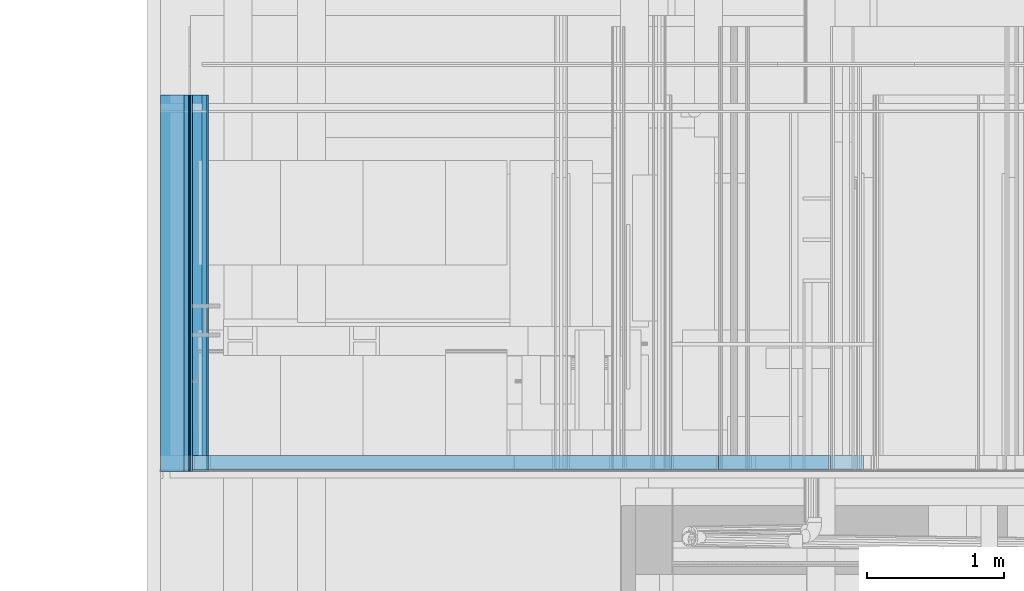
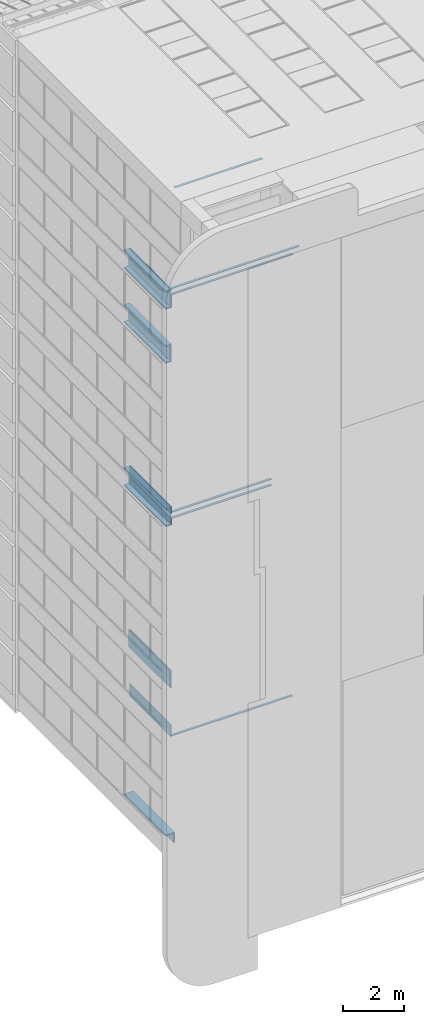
# One storey, part 37 of 583: 41 building element parts, 17 elements without a shape of their own.
"""IFC2X3 building model written with IfcOpenShell, lengths in metres."""

from ifc_helpers import new_model, entity, si_unit, converted_unit, derived_unit, money_unit, direction, frame, frame_2d, origin_with_axes, place, context, subcontext, project, spatial, polyline, rectangle, outline, extrude, material, type_object, element, aggregate, save


model = new_model("IFC2X3")

# Units and contexts
model_context = context("Model", 3, precision=1e-05, world=origin_with_axes(), true_north=direction((0.0, 1.0)))
body_context = subcontext(model_context, "Body", "Model", "MODEL_VIEW", scale=1.0)
ifc_project = project(units=[si_unit("LENGTHUNIT", "METRE"), si_unit("AREAUNIT", "SQUARE_METRE"), si_unit("VOLUMEUNIT", "CUBIC_METRE"), si_unit("ABSORBEDDOSEUNIT", "GRAY"), si_unit("AMOUNTOFSUBSTANCEUNIT", "MOLE"), si_unit("DOSEEQUIVALENTUNIT", "SIEVERT"), si_unit("ELECTRICCAPACITANCEUNIT", "FARAD"), si_unit("ELECTRICCHARGEUNIT", "COULOMB"), si_unit("ELECTRICCONDUCTANCEUNIT", "SIEMENS"), si_unit("ELECTRICCURRENTUNIT", "AMPERE"), si_unit("ELECTRICRESISTANCEUNIT", "OHM"), si_unit("ELECTRICVOLTAGEUNIT", "VOLT"), si_unit("ENERGYUNIT", "JOULE"), si_unit("FORCEUNIT", "NEWTON"), si_unit("FREQUENCYUNIT", "HERTZ"), si_unit("ILLUMINANCEUNIT", "LUX"), si_unit("INDUCTANCEUNIT", "HENRY"), si_unit("LUMINOUSFLUXUNIT", "LUMEN"), si_unit("LUMINOUSINTENSITYUNIT", "CANDELA"), si_unit("MAGNETICFLUXDENSITYUNIT", "TESLA"), si_unit("MAGNETICFLUXUNIT", "WEBER"), si_unit("MASSUNIT", "GRAM"), converted_unit("PLANEANGLEUNIT", "degree", entity("IfcReal", 0.0174532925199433), si_unit("PLANEANGLEUNIT", "RADIAN"), dimensions=[0, 0, 0, 0, 0, 0, 0]), si_unit("POWERUNIT", "WATT"), si_unit("PRESSUREUNIT", "PASCAL"), si_unit("RADIOACTIVITYUNIT", "BECQUEREL"), si_unit("SOLIDANGLEUNIT", "STERADIAN"), si_unit("THERMODYNAMICTEMPERATUREUNIT", "KELVIN"), si_unit("TIMEUNIT", "SECOND"), derived_unit("ACCELERATIONUNIT", [(si_unit("LENGTHUNIT", "METRE"), 1), (si_unit("TIMEUNIT", "SECOND"), -2)]), derived_unit("ANGULARVELOCITYUNIT", [(converted_unit("PLANEANGLEUNIT", "degree", entity("IfcReal", 0.0174532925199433), si_unit("PLANEANGLEUNIT", "RADIAN"), dimensions=[0, 0, 0, 0, 0, 0, 0]), 1), (si_unit("TIMEUNIT", "SECOND"), -1)]), derived_unit("CURVATUREUNIT", [(converted_unit("PLANEANGLEUNIT", "degree", entity("IfcReal", 0.0174532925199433), si_unit("PLANEANGLEUNIT", "RADIAN"), dimensions=[0, 0, 0, 0, 0, 0, 0]), 1), (si_unit("LENGTHUNIT", "METRE"), -1)]), derived_unit("DYNAMICVISCOSITYUNIT", [(si_unit("PRESSUREUNIT", "PASCAL"), 1), (si_unit("TIMEUNIT", "SECOND"), 1)]), derived_unit("HEATFLUXDENSITYUNIT", [(si_unit("POWERUNIT", "WATT"), 1), (si_unit("LENGTHUNIT", "METRE"), -2)]), derived_unit("HEATINGVALUEUNIT", [(si_unit("ENERGYUNIT", "JOULE"), 1), (si_unit("MASSUNIT", "GRAM"), -1)]), derived_unit("INTEGERCOUNTRATEUNIT", [(si_unit("TIMEUNIT", "SECOND"), -1)]), derived_unit("IONCONCENTRATIONUNIT", [(si_unit("MASSUNIT", "GRAM"), 1), (si_unit("VOLUMEUNIT", "CUBIC_METRE"), -1)]), derived_unit("ISOTHERMALMOISTURECAPACITYUNIT", [(si_unit("VOLUMEUNIT", "CUBIC_METRE"), 1), (si_unit("MASSUNIT", "GRAM"), -1)]), derived_unit("KINEMATICVISCOSITYUNIT", [(si_unit("AREAUNIT", "SQUARE_METRE"), 1), (si_unit("TIMEUNIT", "SECOND"), -1)]), derived_unit("LINEARFORCEUNIT", [(si_unit("FORCEUNIT", "NEWTON"), 1), (si_unit("LENGTHUNIT", "METRE"), -1)]), derived_unit("LINEARMOMENTUNIT", [(si_unit("FORCEUNIT", "NEWTON"), 1), (si_unit("LENGTHUNIT", "METRE"), -1)]), derived_unit("LINEARSTIFFNESSUNIT", [(si_unit("FORCEUNIT", "NEWTON"), 1), (si_unit("LENGTHUNIT", "METRE"), -1)]), derived_unit("LINEARVELOCITYUNIT", [(si_unit("LENGTHUNIT", "METRE"), 1), (si_unit("TIMEUNIT", "SECOND"), -1)]), derived_unit("LUMINOUSINTENSITYDISTRIBUTIONUNIT", [(si_unit("LUMINOUSINTENSITYUNIT", "CANDELA"), 1), (si_unit("LUMINOUSFLUXUNIT", "LUMEN"), -1)]), derived_unit("MASSDENSITYUNIT", [(si_unit("MASSUNIT", "GRAM"), 1), (si_unit("VOLUMEUNIT", "CUBIC_METRE"), -1)]), derived_unit("MASSFLOWRATEUNIT", [(si_unit("MASSUNIT", "GRAM"), 1), (si_unit("TIMEUNIT", "SECOND"), -1)]), derived_unit("MASSPERLENGTHUNIT", [(si_unit("MASSUNIT", "GRAM"), 1), (si_unit("LENGTHUNIT", "METRE"), -1)]), derived_unit("MODULUSOFELASTICITYUNIT", [(si_unit("FORCEUNIT", "NEWTON"), 1), (si_unit("AREAUNIT", "SQUARE_METRE"), -1)]), derived_unit("MODULUSOFLINEARSUBGRADEREACTIONUNIT", [(si_unit("FORCEUNIT", "NEWTON"), 1), (si_unit("LENGTHUNIT", "METRE"), -2)]), derived_unit("MODULUSOFROTATIONALSUBGRADEREACTIONUNIT", [(si_unit("FORCEUNIT", "NEWTON"), 1), (si_unit("LENGTHUNIT", "METRE"), 1)]), derived_unit("MODULUSOFSUBGRADEREACTIONUNIT", [(si_unit("FORCEUNIT", "NEWTON"), 1), (si_unit("VOLUMEUNIT", "CUBIC_METRE"), -1)]), derived_unit("MOISTUREDIFFUSIVITYUNIT", [(si_unit("VOLUMEUNIT", "CUBIC_METRE"), 1), (si_unit("TIMEUNIT", "SECOND"), -1)]), derived_unit("MOLECULARWEIGHTUNIT", [(si_unit("MASSUNIT", "GRAM"), 1), (si_unit("AMOUNTOFSUBSTANCEUNIT", "MOLE"), -1)]), derived_unit("PLANARFORCEUNIT", [(si_unit("FORCEUNIT", "NEWTON"), 1), (si_unit("LENGTHUNIT", "METRE"), -2)]), derived_unit("ROTATIONALFREQUENCYUNIT", [(si_unit("TIMEUNIT", "SECOND"), -1)]), derived_unit("ROTATIONALMASSUNIT", [(si_unit("MASSUNIT", "GRAM"), 1), (si_unit("LENGTHUNIT", "METRE"), 2)]), derived_unit("ROTATIONALSTIFFNESSUNIT", [(si_unit("FORCEUNIT", "NEWTON"), 1), (si_unit("LENGTHUNIT", "METRE"), 1), (converted_unit("PLANEANGLEUNIT", "degree", entity("IfcReal", 0.0174532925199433), si_unit("PLANEANGLEUNIT", "RADIAN"), dimensions=[0, 0, 0, 0, 0, 0, 0]), -1)]), derived_unit("SECTIONAREAINTEGRALUNIT", [(si_unit("LENGTHUNIT", "METRE"), 5)]), derived_unit("SECTIONMODULUSUNIT", [(si_unit("LENGTHUNIT", "METRE"), 3)]), derived_unit("SHEARMODULUSUNIT", [(si_unit("FORCEUNIT", "NEWTON"), 1), (si_unit("AREAUNIT", "SQUARE_METRE"), -1)]), derived_unit("SOUNDPOWERUNIT", [(si_unit("ENERGYUNIT", "JOULE"), 1), (si_unit("TIMEUNIT", "SECOND"), -1)]), derived_unit("SPECIFICHEATCAPACITYUNIT", [(si_unit("FORCEUNIT", "NEWTON"), 1), (si_unit("MASSUNIT", "GRAM"), -1), (si_unit("THERMODYNAMICTEMPERATUREUNIT", "KELVIN"), -1)]), derived_unit("TEMPERATUREGRADIENTUNIT", [(si_unit("THERMODYNAMICTEMPERATUREUNIT", "KELVIN"), 1), (si_unit("LENGTHUNIT", "METRE"), -1)]), derived_unit("THERMALADMITTANCEUNIT", [(si_unit("POWERUNIT", "WATT"), 1), (si_unit("AREAUNIT", "SQUARE_METRE"), -1), (si_unit("THERMODYNAMICTEMPERATUREUNIT", "KELVIN"), -1)]), derived_unit("THERMALCONDUCTANCEUNIT", [(si_unit("POWERUNIT", "WATT"), 1), (si_unit("LENGTHUNIT", "METRE"), -1), (si_unit("THERMODYNAMICTEMPERATUREUNIT", "KELVIN"), -1)]), derived_unit("THERMALEXPANSIONCOEFFICIENTUNIT", [(si_unit("THERMODYNAMICTEMPERATUREUNIT", "KELVIN"), -1)]), derived_unit("THERMALRESISTANCEUNIT", [(si_unit("AREAUNIT", "SQUARE_METRE"), 1), (si_unit("POWERUNIT", "WATT"), -1)]), derived_unit("THERMALTRANSMITTANCEUNIT", [(si_unit("POWERUNIT", "WATT"), 1), (si_unit("AREAUNIT", "SQUARE_METRE"), -1), (si_unit("THERMODYNAMICTEMPERATUREUNIT", "KELVIN"), -1)]), derived_unit("TORQUEUNIT", [(si_unit("FORCEUNIT", "NEWTON"), 1), (si_unit("LENGTHUNIT", "METRE"), 1)]), derived_unit("VAPORPERMEABILITYUNIT", [(si_unit("MASSUNIT", "GRAM"), 1), (si_unit("TIMEUNIT", "SECOND"), -1)]), derived_unit("VOLUMETRICFLOWRATEUNIT", [(si_unit("VOLUMEUNIT", "CUBIC_METRE"), 1), (si_unit("TIMEUNIT", "SECOND"), -1)]), derived_unit("WARPINGCONSTANTUNIT", [(si_unit("LENGTHUNIT", "METRE"), 6)]), derived_unit("WARPINGMOMENTUNIT", [(si_unit("FORCEUNIT", "NEWTON"), 1), (si_unit("LENGTHUNIT", "METRE"), 2)]), money_unit("GBP")], contexts=[model_context])

# Site, building, storey
site_placement = place(None, origin_with_axes())
site = spatial("IfcSite", under=ifc_project, at=site_placement, Name="Site", CompositionType="ELEMENT")
building_placement = place(site_placement, origin_with_axes())
building = spatial("IfcBuilding", under=site, at=building_placement, Name="Building01", CompositionType="ELEMENT")
storey_placement = place(building_placement, frame((0.0, 0.0, 20.78), z_axis=(0.0, 0.0, 1.0), x_axis=(1.0, 0.0, 0.0)))
storey = spatial("IfcBuildingStorey", under=building, at=storey_placement, Name="RL", CompositionType="ELEMENT", Elevation=20.78)

# Wall, building element parts
wall_type_1 = type_object("IfcWallType", Name="SHE_A-Walls_Type01c_Partywall_225mm_twin_tall", PredefinedType="NOTDEFINED")
wall_1_placement = place(storey_placement, frame((5.068, 5.15, 1.708), z_axis=(0.0, 1.0, 0.0), x_axis=(-1.0, 0.0, 0.0)))
wall_1 = element("IfcWall", 1, at=wall_1_placement, inside=storey, type_object=wall_type_1, Name="1C", ObjectType="SHE_A-Walls_Type01c_Partywall_225mm_twin_tall")
ifc_material_1 = material(Name="A_BSUK_Walls_Timber")
placement_1 = place(wall_1_placement, origin_with_axes())
building_element_part_1 = element("IfcBuildingElementPart", 2, at=placement_1, material=ifc_material_1, Name="2", context=body_context, shape_type="SweptSolid", body=[
    extrude(outline(polyline([(4.72, 0.152), (-0.152, 0.152), (-0.137, 0.137), (4.72, 0.137), (4.72, 0.152)])), frame((0.0, 0.0, 0.015), z_axis=(0.0, 0.0, 1.0), x_axis=(1.0, 0.0, 0.0)), (0.0, 0.0, 1.0), 0.1),
])
building_element_part_2 = element("IfcBuildingElementPart", 3, at=placement_1, material=ifc_material_1, Name="7", context=body_context, shape_type="SweptSolid", body=[
    extrude(outline(polyline([(4.72, -0.088), (0.088, -0.088), (0.103, -0.103), (4.72, -0.103), (4.72, -0.088)])), frame((0.0, 0.0, 0.015), z_axis=(0.0, 0.0, 1.0), x_axis=(1.0, 0.0, 0.0)), (0.0, 0.0, 1.0), 0.1),
])
aggregate(wall_1, [building_element_part_1, building_element_part_2])

# Wall, building element part
wall_type_2 = type_object("IfcWallType", Name="SHE_A-Walls_Type06d_ExternalWallInsulation_48mm", PredefinedType="NOTDEFINED")
wall_2_placement = place(storey_placement, frame((0.4, 5.15, 5.93), z_axis=(0.0, 1.0, 0.0), x_axis=(1.0, 0.0, 0.0)))
wall_2 = element("IfcWall", 4, at=wall_2_placement, inside=storey, type_object=wall_type_2, Name="6D", ObjectType="SHE_A-Walls_Type06d_ExternalWallInsulation_48mm")
building_element_part_3_placement = place(wall_2_placement, origin_with_axes())
building_element_part_3 = element("IfcBuildingElementPart", 5, at=building_element_part_3_placement, material=ifc_material_1, Name="2", context=body_context, shape_type="SweptSolid", body=[
    extrude(outline(polyline([(0.063, 0.063), (0.048, 0.048), (3.42218, 0.048), (3.42218, 0.063), (0.063, 0.063)])), frame((0.0, 0.0, 0.015), z_axis=(0.0, 0.0, 1.0), x_axis=(1.0, 0.0, 0.0)), (0.0, 0.0, 1.0), 0.1),
])
aggregate(wall_2, [building_element_part_3])

# Wall, building element parts
wall_3_placement = place(storey_placement, frame((4.995, 5.15, -7.2795), z_axis=(0.0, 1.0, 0.0), x_axis=(-1.0, 0.0, 0.0)))
wall_3 = element("IfcWall", 6, at=wall_3_placement, inside=storey, type_object=wall_type_1, Name="1C", ObjectType="SHE_A-Walls_Type01c_Partywall_225mm_twin_tall")
placement_2 = place(wall_3_placement, origin_with_axes())
building_element_part_4 = element("IfcBuildingElementPart", 7, at=placement_2, material=ifc_material_1, Name="2", context=body_context, shape_type="SweptSolid", body=[
    extrude(rectangle(XDim=3.831428, YDim=0.015, at=frame_2d((2.746286, 0.1195), x_axis=(-1.0, 0.0))), frame((0.0, 0.0, 0.015), z_axis=(0.0, 0.0, 1.0), x_axis=(1.0, 0.0, 0.0)), (0.0, 0.0, 1.0), 0.1),
])
building_element_part_5 = element("IfcBuildingElementPart", 8, at=placement_2, material=ifc_material_1, Name="7", context=body_context, shape_type="SweptSolid", body=[
    extrude(rectangle(XDim=3.831428, YDim=0.015, at=frame_2d((2.746286, -0.1205), x_axis=(-1.0, 0.0))), frame((0.0, 0.0, 0.015), z_axis=(0.0, 0.0, 1.0), x_axis=(1.0, 0.0, 0.0)), (0.0, 0.0, 1.0), 0.1),
])
aggregate(wall_3, [building_element_part_4, building_element_part_5])

# Wall, building element part
wall_4_placement = place(storey_placement, frame((0.306, 5.15, -16.258), z_axis=(0.0, 1.0, 0.0), x_axis=(1.0, 0.0, 0.0)))
wall_4 = element("IfcWall", 9, at=wall_4_placement, inside=storey, type_object=wall_type_1, Name="1C", ObjectType="SHE_A-Walls_Type01c_Partywall_225mm_twin_tall")
building_element_part_6_placement = place(wall_4_placement, origin_with_axes())
building_element_part_6 = element("IfcBuildingElementPart", 10, at=building_element_part_6_placement, material=ifc_material_1, Name="7", context=body_context, shape_type="SweptSolid", body=[
    extrude(rectangle(XDim=4.617, YDim=0.015, at=frame_2d((2.3505, -0.0955), x_axis=(-1.0, 0.0))), frame((0.0, 0.0, 0.015), z_axis=(0.0, 0.0, 1.0), x_axis=(1.0, 0.0, 0.0)), (0.0, 0.0, 1.0), 0.1),
])
aggregate(wall_4, [building_element_part_6])

wall_type_3 = type_object("IfcWallType", Name="SHE_A-Walls_Type06f_ExternalWallInsulation_48+15mm", PredefinedType="NOTDEFINED")
wall_5_placement = place(storey_placement, frame((0.27, 5.15, -16.383), z_axis=(0.0, 1.0, 0.0), x_axis=(0.0, 0.0, 1.0)))
wall_5 = element("IfcWall", 11, at=wall_5_placement, inside=storey, type_object=wall_type_3, Name="6F", ObjectType="SHE_A-Walls_Type06f_ExternalWallInsulation_48+15mm")
ifc_material_2 = material(Name="A_BSUK_WallInternal_Finishes_Plasterboard")
building_element_part_7_placement = place(wall_5_placement, origin_with_axes())
building_element_part_7 = element("IfcBuildingElementPart", 12, at=building_element_part_7_placement, material=ifc_material_2, Name="7", context=body_context, shape_type="SweptSolid", body=[
    extrude(rectangle(XDim=0.51, YDim=0.012, at=frame_2d((0.453, 0.042), x_axis=(-1.0, 0.0))), origin_with_axes(), (0.0, 0.0, 1.0), 2.74),
])
aggregate(wall_5, [building_element_part_7])

# Wall, building element parts
wall_6_placement = place(storey_placement, frame((0.27, 5.15, -7.623), z_axis=(0.0, 1.0, 0.0), x_axis=(0.0, 0.0, 1.0)))
wall_6 = element("IfcWall", 13, at=wall_6_placement, inside=storey, type_object=wall_type_3, Name="6F", ObjectType="SHE_A-Walls_Type06f_ExternalWallInsulation_48+15mm")
ifc_material_3 = material(Name="A_BSUK_Insulation")
placement_3 = place(wall_6_placement, origin_with_axes())
building_element_part_8 = element("IfcBuildingElementPart", 14, at=placement_3, material=ifc_material_3, Name="1", context=body_context, shape_type="SweptSolid", body=[
    extrude(rectangle(XDim=0.696, YDim=0.036, at=frame_2d((0.348, 0.018), x_axis=(-1.0, 0.0))), origin_with_axes(), (0.0, 0.0, 1.0), 2.74),
])
building_element_part_9 = element("IfcBuildingElementPart", 15, at=placement_3, material=ifc_material_2, Name="2", context=body_context, shape_type="SweptSolid", body=[
    extrude(outline(polyline([(0.723, 0.063), (0.4405, 0.063), (0.4405, 0.048), (0.708, 0.048), (0.723, 0.063)])), origin_with_axes(), (0.0, 0.0, 1.0), 2.74),
])
building_element_part_10 = element("IfcBuildingElementPart", 16, at=placement_3, material=ifc_material_2, Name="4", context=body_context, shape_type="SweptSolid", body=[
    extrude(outline(polyline([(0.2455, 0.063), (-0.027, 0.063), (-0.012, 0.048), (0.2455, 0.048), (0.2455, 0.063)])), origin_with_axes(), (0.0, 0.0, 1.0), 2.74),
])
building_element_part_11 = element("IfcBuildingElementPart", 17, at=placement_3, material=ifc_material_2, Name="6", context=body_context, shape_type="SweptSolid", body=[
    extrude(rectangle(XDim=0.2725, YDim=0.012, at=frame_2d((0.12425, 0.042), x_axis=(-1.0, 0.0))), origin_with_axes(), (0.0, 0.0, 1.0), 2.74),
])
building_element_part_12 = element("IfcBuildingElementPart", 18, at=placement_3, material=ifc_material_2, Name="7", context=body_context, shape_type="SweptSolid", body=[
    extrude(rectangle(XDim=0.2825, YDim=0.012, at=frame_2d((0.56675, 0.042), x_axis=(-1.0, 0.0))), origin_with_axes(), (0.0, 0.0, 1.0), 2.74),
])
aggregate(wall_6, [building_element_part_8, building_element_part_9, building_element_part_10, building_element_part_11, building_element_part_12])

wall_7_placement = place(storey_placement, frame((0.27, 5.15, -6.963), z_axis=(0.0, 1.0, 0.0), x_axis=(-1.0, 0.0, 0.0)))
wall_7 = element("IfcWall", 19, at=wall_7_placement, inside=storey, type_object=wall_type_3, Name="6F", ObjectType="SHE_A-Walls_Type06f_ExternalWallInsulation_48+15mm")
placement_4 = place(wall_7_placement, origin_with_axes())
building_element_part_13 = element("IfcBuildingElementPart", 20, at=placement_4, material=ifc_material_3, Name="1", context=body_context, shape_type="SweptSolid", body=[
    extrude(rectangle(XDim=0.036, YDim=0.17, at=frame_2d((0.085, 0.018), x_axis=(0.0, -1.0))), origin_with_axes(), (0.0, 0.0, 1.0), 2.74),
])
building_element_part_14 = element("IfcBuildingElementPart", 21, at=placement_4, material=ifc_material_2, Name="3", context=body_context, shape_type="SweptSolid", body=[
    extrude(outline(polyline([(-0.063, 0.063), (-0.048, 0.048), (0.17, 0.048), (0.17, 0.063), (-0.063, 0.063)])), origin_with_axes(), (0.0, 0.0, 1.0), 2.74),
])
building_element_part_15 = element("IfcBuildingElementPart", 22, at=placement_4, material=ifc_material_2, Name="4", context=body_context, shape_type="SweptSolid", body=[
    extrude(rectangle(XDim=0.012, YDim=0.206, at=frame_2d((0.067, 0.042), x_axis=(0.0, -1.0))), origin_with_axes(), (0.0, 0.0, 1.0), 2.74),
])
aggregate(wall_7, [building_element_part_13, building_element_part_14, building_element_part_15])

wall_8_placement = place(storey_placement, frame((0.1, 5.15, -7.587), z_axis=(0.0, 1.0, 0.0), x_axis=(1.0, 0.0, 0.0)))
wall_8 = element("IfcWall", 23, at=wall_8_placement, inside=storey, type_object=wall_type_3, Name="6F", ObjectType="SHE_A-Walls_Type06f_ExternalWallInsulation_48+15mm")
placement_5 = place(wall_8_placement, origin_with_axes())
building_element_part_16 = element("IfcBuildingElementPart", 24, at=placement_5, material=ifc_material_3, Name="1", context=body_context, shape_type="SweptSolid", body=[
    extrude(rectangle(XDim=0.17, YDim=0.036, at=frame_2d((0.085, 0.018), x_axis=(-1.0, 0.0))), origin_with_axes(), (0.0, 0.0, 1.0), 2.74),
])
building_element_part_17 = element("IfcBuildingElementPart", 25, at=placement_5, material=ifc_material_2, Name="3", context=body_context, shape_type="SweptSolid", body=[
    extrude(outline(polyline([(0.233, 0.063), (0.0, 0.063), (0.0, 0.048), (0.218, 0.048), (0.233, 0.063)])), origin_with_axes(), (0.0, 0.0, 1.0), 2.74),
])
building_element_part_18 = element("IfcBuildingElementPart", 26, at=placement_5, material=ifc_material_2, Name="4", context=body_context, shape_type="SweptSolid", body=[
    extrude(rectangle(XDim=0.206, YDim=0.012, at=frame_2d((0.103, 0.042), x_axis=(-1.0, 0.0))), origin_with_axes(), (0.0, 0.0, 1.0), 2.74),
])
aggregate(wall_8, [building_element_part_16, building_element_part_17, building_element_part_18])

wall_9_placement = place(storey_placement, frame((0.1, 5.15, 1.173), z_axis=(0.0, 1.0, 0.0), x_axis=(1.0, 0.0, 0.0)))
wall_9 = element("IfcWall", 27, at=wall_9_placement, inside=storey, type_object=wall_type_3, Name="6F", ObjectType="SHE_A-Walls_Type06f_ExternalWallInsulation_48+15mm")
placement_6 = place(wall_9_placement, origin_with_axes())
building_element_part_19 = element("IfcBuildingElementPart", 28, at=placement_6, material=ifc_material_3, Name="1", context=body_context, shape_type="SweptSolid", body=[
    extrude(rectangle(XDim=0.17, YDim=0.036, at=frame_2d((0.085, 0.018), x_axis=(-1.0, 0.0))), origin_with_axes(), (0.0, 0.0, 1.0), 2.74),
])
building_element_part_20 = element("IfcBuildingElementPart", 29, at=placement_6, material=ifc_material_2, Name="3", context=body_context, shape_type="SweptSolid", body=[
    extrude(outline(polyline([(0.233, 0.063), (0.0, 0.063), (0.0, 0.048), (0.218, 0.048), (0.233, 0.063)])), origin_with_axes(), (0.0, 0.0, 1.0), 2.74),
])
building_element_part_21 = element("IfcBuildingElementPart", 30, at=placement_6, material=ifc_material_2, Name="4", context=body_context, shape_type="SweptSolid", body=[
    extrude(rectangle(XDim=0.206, YDim=0.012, at=frame_2d((0.103, 0.042), x_axis=(-1.0, 0.0))), origin_with_axes(), (0.0, 0.0, 1.0), 2.74),
])
aggregate(wall_9, [building_element_part_19, building_element_part_20, building_element_part_21])

wall_10_placement = place(storey_placement, frame((0.27, 5.15, 1.137), z_axis=(0.0, 1.0, 0.0), x_axis=(0.0, 0.0, 1.0)))
wall_10 = element("IfcWall", 31, at=wall_10_placement, inside=storey, type_object=wall_type_3, Name="6F", ObjectType="SHE_A-Walls_Type06f_ExternalWallInsulation_48+15mm")
placement_7 = place(wall_10_placement, origin_with_axes())
building_element_part_22 = element("IfcBuildingElementPart", 32, at=placement_7, material=ifc_material_3, Name="1", context=body_context, shape_type="SweptSolid", body=[
    extrude(rectangle(XDim=0.696, YDim=0.036, at=frame_2d((0.348, 0.018), x_axis=(-1.0, 0.0))), origin_with_axes(), (0.0, 0.0, 1.0), 2.74),
])
building_element_part_23 = element("IfcBuildingElementPart", 33, at=placement_7, material=ifc_material_2, Name="2", context=body_context, shape_type="SweptSolid", body=[
    extrude(outline(polyline([(0.723, 0.063), (0.693, 0.063), (0.693, 0.048), (0.708, 0.048), (0.723, 0.063)])), origin_with_axes(), (0.0, 0.0, 1.0), 2.74),
])
building_element_part_24 = element("IfcBuildingElementPart", 34, at=placement_7, material=ifc_material_2, Name="4", context=body_context, shape_type="SweptSolid", body=[
    extrude(outline(polyline([(0.498, 0.063), (-0.027, 0.063), (-0.012, 0.048), (0.498, 0.048), (0.498, 0.063)])), origin_with_axes(), (0.0, 0.0, 1.0), 2.74),
])
building_element_part_25 = element("IfcBuildingElementPart", 35, at=placement_7, material=ifc_material_2, Name="6", context=body_context, shape_type="SweptSolid", body=[
    extrude(rectangle(XDim=0.525, YDim=0.012, at=frame_2d((0.2505, 0.042), x_axis=(-1.0, 0.0))), origin_with_axes(), (0.0, 0.0, 1.0), 2.74),
])
building_element_part_26 = element("IfcBuildingElementPart", 36, at=placement_7, material=ifc_material_2, Name="7", context=body_context, shape_type="SweptSolid", body=[
    extrude(rectangle(XDim=0.03, YDim=0.012, at=frame_2d((0.693, 0.042), x_axis=(-1.0, 0.0))), origin_with_axes(), (0.0, 0.0, 1.0), 2.74),
])
aggregate(wall_10, [building_element_part_22, building_element_part_23, building_element_part_24, building_element_part_25, building_element_part_26])

wall_11_placement = place(storey_placement, frame((0.27, 5.15, 1.797), z_axis=(0.0, 1.0, 0.0), x_axis=(-1.0, 0.0, 0.0)))
wall_11 = element("IfcWall", 37, at=wall_11_placement, inside=storey, type_object=wall_type_3, Name="6F", ObjectType="SHE_A-Walls_Type06f_ExternalWallInsulation_48+15mm")
placement_8 = place(wall_11_placement, origin_with_axes())
building_element_part_27 = element("IfcBuildingElementPart", 38, at=placement_8, material=ifc_material_3, Name="1", context=body_context, shape_type="SweptSolid", body=[
    extrude(rectangle(XDim=0.036, YDim=0.17, at=frame_2d((0.085, 0.018), x_axis=(0.0, -1.0))), origin_with_axes(), (0.0, 0.0, 1.0), 2.74),
])
building_element_part_28 = element("IfcBuildingElementPart", 39, at=placement_8, material=ifc_material_2, Name="3", context=body_context, shape_type="SweptSolid", body=[
    extrude(outline(polyline([(-0.063, 0.063), (-0.048, 0.048), (0.17, 0.048), (0.17, 0.063), (-0.063, 0.063)])), origin_with_axes(), (0.0, 0.0, 1.0), 2.74),
])
building_element_part_29 = element("IfcBuildingElementPart", 40, at=placement_8, material=ifc_material_2, Name="4", context=body_context, shape_type="SweptSolid", body=[
    extrude(rectangle(XDim=0.012, YDim=0.206, at=frame_2d((0.067, 0.042), x_axis=(0.0, -1.0))), origin_with_axes(), (0.0, 0.0, 1.0), 2.74),
])
aggregate(wall_11, [building_element_part_27, building_element_part_28, building_element_part_29])

wall_12_placement = place(storey_placement, frame((0.1, 5.15, -1.017), z_axis=(0.0, 1.0, 0.0), x_axis=(1.0, 0.0, 0.0)))
wall_12 = element("IfcWall", 41, at=wall_12_placement, inside=storey, type_object=wall_type_2, Name="6D", ObjectType="SHE_A-Walls_Type06d_ExternalWallInsulation_48mm")
placement_9 = place(wall_12_placement, origin_with_axes())
building_element_part_30 = element("IfcBuildingElementPart", 42, at=placement_9, material=ifc_material_3, Name="1", context=body_context, shape_type="SweptSolid", body=[
    extrude(outline(polyline([(0.206, 0.036), (0.0, 0.036), (0.0, 0.0), (0.17, 0.0), (0.206, 0.036)])), origin_with_axes(), (0.0, 0.0, 1.0), 2.74),
])
building_element_part_31 = element("IfcBuildingElementPart", 43, at=placement_9, material=ifc_material_2, Name="3", context=body_context, shape_type="SweptSolid", body=[
    extrude(outline(polyline([(0.218, 0.048), (0.0, 0.048), (0.0, 0.035), (0.205, 0.035), (0.218, 0.048)])), origin_with_axes(), (0.0, 0.0, 1.0), 2.74),
])
aggregate(wall_12, [building_element_part_30, building_element_part_31])

wall_13_placement = place(storey_placement, frame((0.27, 5.15, -1.017), z_axis=(0.0, 1.0, 0.0), x_axis=(0.0, 0.0, 1.0)))
wall_13 = element("IfcWall", 44, at=wall_13_placement, inside=storey, type_object=wall_type_2, Name="6D", ObjectType="SHE_A-Walls_Type06d_ExternalWallInsulation_48mm")
placement_10 = place(wall_13_placement, origin_with_axes())
building_element_part_32 = element("IfcBuildingElementPart", 45, at=placement_10, material=ifc_material_3, Name="1", context=body_context, shape_type="SweptSolid", body=[
    extrude(outline(polyline([(0.66, 0.036), (-0.036, 0.036), (0.0, 0.0), (0.624, 0.0), (0.66, 0.036)])), origin_with_axes(), (0.0, 0.0, 1.0), 2.74),
])
building_element_part_33 = element("IfcBuildingElementPart", 46, at=placement_10, material=ifc_material_2, Name="3", context=body_context, shape_type="SweptSolid", body=[
    extrude(outline(polyline([(0.672, 0.048), (-0.048, 0.048), (-0.035, 0.035), (0.659, 0.035), (0.672, 0.048)])), origin_with_axes(), (0.0, 0.0, 1.0), 2.74),
])
aggregate(wall_13, [building_element_part_32, building_element_part_33])

wall_14_placement = place(storey_placement, frame((0.27, 5.15, -0.393), z_axis=(0.0, 1.0, 0.0), x_axis=(-1.0, 0.0, 0.0)))
wall_14 = element("IfcWall", 47, at=wall_14_placement, inside=storey, type_object=wall_type_2, Name="6D", ObjectType="SHE_A-Walls_Type06d_ExternalWallInsulation_48mm")
placement_11 = place(wall_14_placement, origin_with_axes())
building_element_part_34 = element("IfcBuildingElementPart", 48, at=placement_11, material=ifc_material_3, Name="1", context=body_context, shape_type="SweptSolid", body=[
    extrude(outline(polyline([(-0.036, 0.036), (0.0, 0.0), (0.17, 0.0), (0.17, 0.036), (-0.036, 0.036)])), origin_with_axes(), (0.0, 0.0, 1.0), 2.74),
])
building_element_part_35 = element("IfcBuildingElementPart", 49, at=placement_11, material=ifc_material_2, Name="3", context=body_context, shape_type="SweptSolid", body=[
    extrude(outline(polyline([(-0.048, 0.048), (-0.035, 0.035), (0.17, 0.035), (0.17, 0.048), (-0.048, 0.048)])), origin_with_axes(), (0.0, 0.0, 1.0), 2.74),
])
aggregate(wall_14, [building_element_part_34, building_element_part_35])

wall_15_placement = place(storey_placement, frame((0.27, 5.15, -14.193), z_axis=(0.0, 1.0, 0.0), x_axis=(0.0, 0.0, 1.0)))
wall_15 = element("IfcWall", 50, at=wall_15_placement, inside=storey, type_object=wall_type_2, Name="6D", ObjectType="SHE_A-Walls_Type06d_ExternalWallInsulation_48mm")
placement_12 = place(wall_15_placement, origin_with_axes())
building_element_part_36 = element("IfcBuildingElementPart", 51, at=placement_12, material=ifc_material_3, Name="1", context=body_context, shape_type="SweptSolid", body=[
    extrude(rectangle(XDim=0.696, YDim=0.036, at=frame_2d((0.348, 0.018), x_axis=(-1.0, 0.0))), origin_with_axes(), (0.0, 0.0, 1.0), 2.74),
])
building_element_part_37 = element("IfcBuildingElementPart", 52, at=placement_12, material=ifc_material_2, Name="3", context=body_context, shape_type="SweptSolid", body=[
    extrude(outline(polyline([(0.708, 0.048), (-0.012, 0.048), (0.001, 0.035), (0.695, 0.035), (0.708, 0.048)])), origin_with_axes(), (0.0, 0.0, 1.0), 2.74),
])
aggregate(wall_15, [building_element_part_36, building_element_part_37])

wall_16_placement = place(storey_placement, frame((0.4, 5.15, -20.474), z_axis=(0.0, 1.0, 0.0), x_axis=(0.0, 0.0, 1.0)))
wall_16 = element("IfcWall", 53, at=wall_16_placement, inside=storey, type_object=wall_type_2, Name="6D", ObjectType="SHE_A-Walls_Type06d_ExternalWallInsulation_48mm")
placement_13 = place(wall_16_placement, origin_with_axes())
building_element_part_38 = element("IfcBuildingElementPart", 54, at=placement_13, material=ifc_material_3, Name="1", context=body_context, shape_type="SweptSolid", body=[
    extrude(rectangle(XDim=0.371, YDim=0.036, at=frame_2d((0.1855, 0.018), x_axis=(-1.0, 0.0))), origin_with_axes(), (0.0, 0.0, 1.0), 2.74),
])
building_element_part_39 = element("IfcBuildingElementPart", 55, at=placement_13, material=ifc_material_2, Name="3", context=body_context, shape_type="SweptSolid", body=[
    extrude(outline(polyline([(0.419, 0.048), (-0.001, 0.048), (-0.001, 0.035), (0.406, 0.035), (0.419, 0.048)])), origin_with_axes(), (0.0, 0.0, 1.0), 2.74),
])
aggregate(wall_16, [building_element_part_38, building_element_part_39])

wall_17_placement = place(storey_placement, frame((0.436, 5.15, -20.103), z_axis=(0.0, 1.0, 0.0), x_axis=(-1.0, 0.0, 0.0)))
wall_17 = element("IfcWall", 56, at=wall_17_placement, inside=storey, type_object=wall_type_2, Name="6D", ObjectType="SHE_A-Walls_Type06d_ExternalWallInsulation_48mm")
placement_14 = place(wall_17_placement, origin_with_axes())
building_element_part_40 = element("IfcBuildingElementPart", 57, at=placement_14, material=ifc_material_3, Name="1", context=body_context, shape_type="SweptSolid", body=[
    extrude(rectangle(XDim=0.036, YDim=0.336, at=frame_2d((0.168, 0.018), x_axis=(0.0, -1.0))), origin_with_axes(), (0.0, 0.0, 1.0), 2.74),
])
building_element_part_41 = element("IfcBuildingElementPart", 58, at=placement_14, material=ifc_material_2, Name="3", context=body_context, shape_type="SweptSolid", body=[
    extrude(outline(polyline([(-0.012, 0.048), (0.001, 0.035), (0.336, 0.035), (0.336, 0.048), (-0.012, 0.048)])), origin_with_axes(), (0.0, 0.0, 1.0), 2.74),
])
aggregate(wall_17, [building_element_part_40, building_element_part_41])

save(model, "model.ifc")
